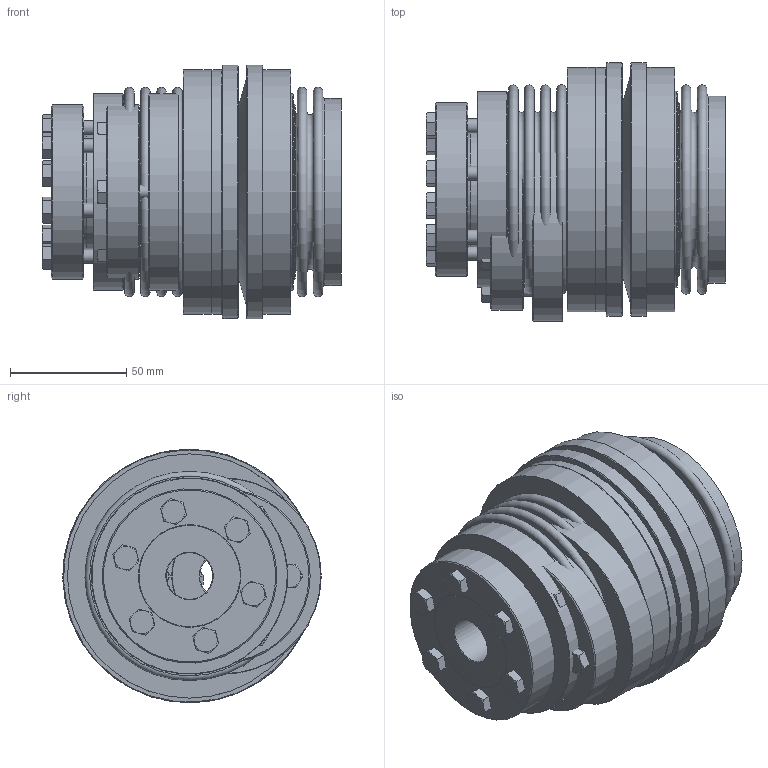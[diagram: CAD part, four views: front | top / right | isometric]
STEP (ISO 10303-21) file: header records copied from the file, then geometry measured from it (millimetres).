
FILE_DESCRIPTION( ( 'Unknown' ), '1' );
FILE_NAME( 'C:/Dokumente und Einstellungen/SKarpstein/Desktop/Korrigierte 3D Modelle/KBK-B-AI/KBK-BAI-200-110.stp', 'Unknown', ( 'Unknown' ), ( 'Unknown' ), 'XStep 1.0', 'Unknown', ' ' );
FILE_SCHEMA( ( 'automotive_design' ) );
Length unit declared in the file: millimetre
Products named in the file (12): Assem1; Assem2; Hex Screw GradeC_DIN_ISO 4018 - M6 x 30-NN_1; BA200_Standard; DR200_Standard; Stellring 200; Druckring 200; KBK L-I-200 Grundkörper; Konusbuchse 200; din_en_24017_m6x25_0; Flansch BK200; BK200_Standard_0
Bounding box: 128.95 x 111.07 x 109 mm (x, y, z)
Volume: 1017997.1 mm3; surface area: 404206.3 mm2
Topology: 38 solids, 38 shells, 783 faces, 1651 edges, 1049 vertices
Faces by surface type: plane 337, cone 232, cylinder 167, torus 47
Full cylindrical faces by diameter (mm): 3.242 x6, 4.917 x18, 5 x18, 5.2 x12, 6 x20, 6.5 x12, 6.6 x18, 8.8 x7, 20 x7, 46 x2, 47 x2, 49.29 x3, 50 x4, 60 x2, 62 x2, 64 x2, 65 x2, 66 x4, 75 x3, 77 x2, 79.2 x4, 80.4 x4, 84.5 x3, 90 x2, 98 x2, 105 x4, 109 x2
Entity records: 6155 total; most frequent: CARTESIAN_POINT 1304, DIRECTION 1022, ORIENTED_EDGE 646, AXIS2_PLACEMENT_3D 487, EDGE_LOOP 452, EDGE_CURVE 323, FACE_OUTER_BOUND 314, VERTEX_POINT 275
